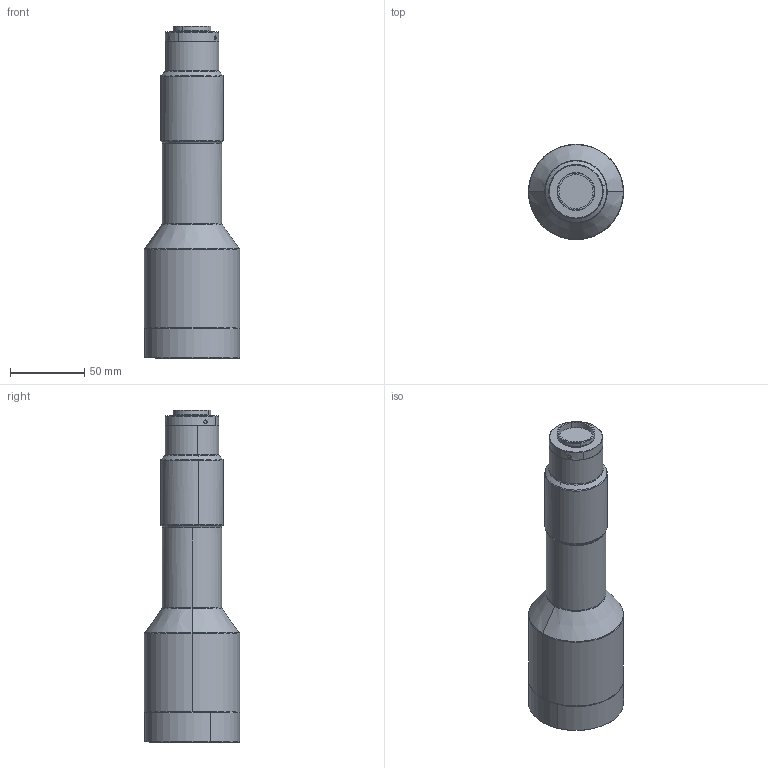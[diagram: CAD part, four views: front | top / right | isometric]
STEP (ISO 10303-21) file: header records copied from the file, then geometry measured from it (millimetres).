
FILE_DESCRIPTION (( 'STEP AP203' ), '1' );
FILE_NAME ('WWK03-350-230.STEP', '2024-04-09T09:16:10', ( '' ), ( '' ), 'SwSTEP 2.0', 'SolidWorks 2017', '' );
FILE_SCHEMA (( 'CONFIG_CONTROL_DESIGN' ));
Length unit declared in the file: millimetre
Products named in the file (1): WWK03-350-230
Bounding box: 64 x 64 x 223.32 mm (x, y, z)
Volume: 428128.7 mm3; surface area: 40674.3 mm2
Topology: 1 solids, 4 shells, 98 faces, 205 edges, 124 vertices
Faces by surface type: cylinder 44, cone 28, plane 14, torus 12
Entity records: 2914 total; most frequent: CARTESIAN_POINT 660, DIRECTION 511, ORIENTED_EDGE 410, AXIS2_PLACEMENT_3D 221, EDGE_CURVE 205, VERTEX_POINT 124, CIRCLE 122, EDGE_LOOP 113
